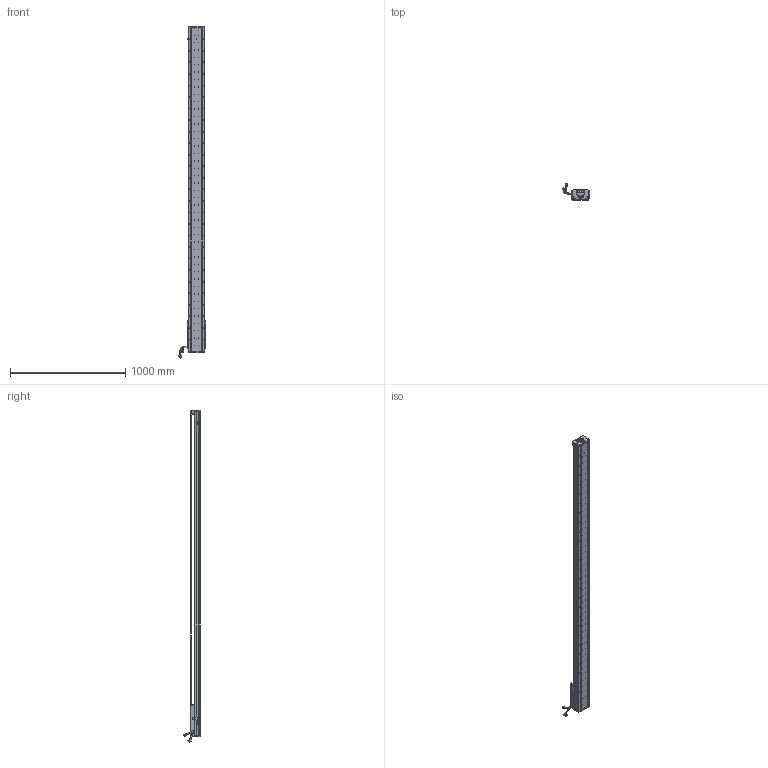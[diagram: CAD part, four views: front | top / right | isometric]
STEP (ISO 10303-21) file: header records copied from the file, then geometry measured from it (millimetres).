
FILE_DESCRIPTION (( 'STEP AP203' ), '1' );
FILE_NAME ('Z3-RY140D-1-L500-B-K.SLDASM_2500.step', '2021-05-17T08:05:22', ( '盈信电脑' ), ( '东莞市道滘镇水果街19号' ), 'SwSTEP 2.0', 'SolidWorks 2016', '' );
FILE_SCHEMA (( 'CONFIG_CONTROL_DESIGN' ));
Length unit declared in the file: millimetre
Products named in the file (36): SEAL; SCREW-M1.6-2; 080黍杅芛假蚾釱21遴; Z3-RY140-L500詩湍100mm遵_2500; SCALE-Part-2; LABEL; HARNESS-Part-2; Z-140詩湍傷裔啣; SCREW-M1.6-3; SEAL-Part-1; Z3-RY140D-1-L500-B-K.SLDASM_2500; 140蚥薯蝶輸; SCREW-M1.7; COVER; 140-Z-臏賑輸盄裔(21遴); 140雄赽晤鎢ん堤盄; PBU_SHEET; 覜茼ん672; Z3-RY140-L500直线电机模组底座_2500; HOLDER0; SHIELDPLATE; SCREW-M1.6; COVER-Part-1; Z-RY140詩湍奻揤裔; Z-RY140感应器672光电感应片; HARNESS; SCREW-M1.6-1; SCREW-M1.7-1; Z-RY140詩湍狟揤裔; SCALE-Part-1; LABEL-Part-1; Z3-RY140圉猾敕臏賑輸(21遴); 榋妏寠巭燃_暯_M2_2; PSLH080_PSLF2; SCALE; HARNESS-Part-1
Assembly tree (41 placements, depth 4):
  Z3-RY140D-1-L500-B-K.SLDASM_2500
    Z3-RY140-L500直线电机模组底座_2500
    Z-RY140感应器672光电感应片
    Z3-RY140圉猾敕臏賑輸(21遴)
    覜茼ん672  x3
    Z3-RY140-L500詩湍100mm遵_2500
    PSLH080_PSLF2
      SCALE
        SCALE-Part-1
        SCALE-Part-2
      HARNESS
        HARNESS-Part-1
        HARNESS-Part-2
      LABEL
        LABEL-Part-1
      COVER
        COVER-Part-1
      SEAL
        SEAL-Part-1
      榋妏寠巭燃_暯_M2_2
      SHIELDPLATE
      SCREW-M1.7
      SCREW-M1.7-1
      PBU_SHEET
      SCREW-M1.6
      SCREW-M1.6-1
      SCREW-M1.6-2
      SCREW-M1.6-3
      HOLDER0
    080黍杅芛假蚾釱21遴
    140-Z-臏賑輸盄裔(21遴)
    Z-140詩湍傷裔啣  x2
    Z-RY140詩湍狟揤裔  x2
    Z-RY140詩湍奻揤裔  x2
    140蚥薯蝶輸  x2
    140雄赽晤鎢ん堤盄
Bounding box: 239.79 x 143.88 x 2875.87 mm (x, y, z)
Volume: 9146888.3 mm3; surface area: 2382366.7 mm2
Topology: 36 solids, 36 shells, 4222 faces, 11502 edges, 7281 vertices
Faces by surface type: cylinder 2300, plane 1382, cone 418, torus 69, bspline 53
Entity records: 134406 total; most frequent: CARTESIAN_POINT 38073, ORIENTED_EDGE 19892, DIRECTION 18394, EDGE_CURVE 9946, AXIS2_PLACEMENT_3D 6850, VERTEX_POINT 6449, VECTOR 4694, LINE 4694
